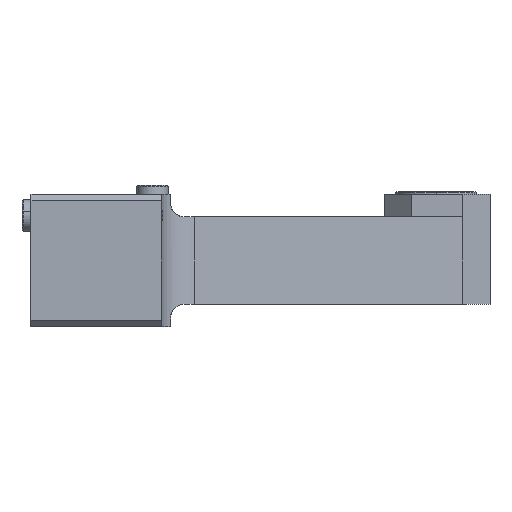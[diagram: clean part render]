
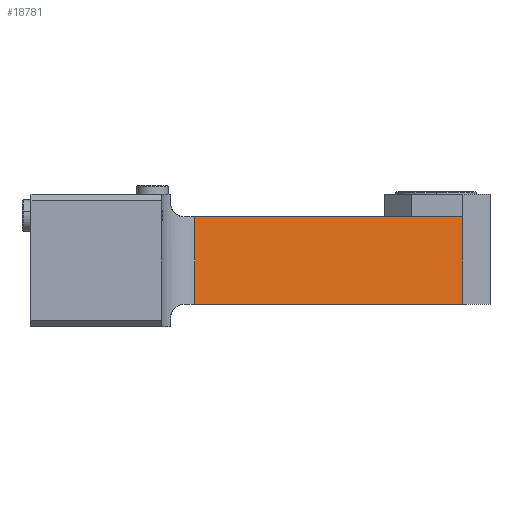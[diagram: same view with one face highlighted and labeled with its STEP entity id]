
A CAD part, left-side view. The second image highlights one B-rep face of the part: STEP entity #18781.
In plain terms, the highlighted planar face has unit normal (-0.985, -0.174, 0).
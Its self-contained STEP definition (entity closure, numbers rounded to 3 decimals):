
#467 = EDGE_CURVE ( 'NONE', #7554, #11256, #18400, .T. ) ;
#950 = VERTEX_POINT ( 'NONE', #1161 ) ;
#1161 = CARTESIAN_POINT ( 'NONE',  ( -24., -90., 10. ) ) ;
#1301 = DIRECTION ( 'NONE',  ( -0.174, 0.985, 0. ) ) ;
#1600 = DIRECTION ( 'NONE',  ( -0.174, 0.985, 0. ) ) ;
#2550 = EDGE_LOOP ( 'NONE', ( #10076, #23640, #10495, #26383 ) ) ;
#2760 = AXIS2_PLACEMENT_3D ( 'NONE', #13840, #18110, #1600 ) ;
#2812 = CARTESIAN_POINT ( 'NONE',  ( -24., -90., 49. ) ) ;
#3058 = FACE_OUTER_BOUND ( 'NONE', #2550, .T. ) ;
#3070 = CARTESIAN_POINT ( 'NONE',  ( -24., -90., 0. ) ) ;
#3713 = CARTESIAN_POINT ( 'NONE',  ( -38.667, -6.818, 49. ) ) ;
#4674 = VECTOR ( 'NONE', #22640, 1000. ) ;
#5895 = LINE ( 'NONE', #3070, #12634 ) ;
#7245 = VECTOR ( 'NONE', #1301, 1000. ) ;
#7554 = VERTEX_POINT ( 'NONE', #2812 ) ;
#9150 = CARTESIAN_POINT ( 'NONE',  ( -47.628, 44., 10. ) ) ;
#9636 = CARTESIAN_POINT ( 'NONE',  ( -45.005, 29.126, 49. ) ) ;
#9805 = PLANE ( 'NONE',  #2760 ) ;
#10076 = ORIENTED_EDGE ( 'NONE', *, *, #467, .T. ) ;
#10191 = EDGE_CURVE ( 'NONE', #950, #23823, #24196, .T. ) ;
#10495 = ORIENTED_EDGE ( 'NONE', *, *, #10191, .F. ) ;
#10617 = EDGE_CURVE ( 'NONE', #11256, #23823, #19686, .T. ) ;
#11256 = VERTEX_POINT ( 'NONE', #9636 ) ;
#12009 = VECTOR ( 'NONE', #22660, 1000. ) ;
#12634 = VECTOR ( 'NONE', #21174, 1000. ) ;
#13840 = CARTESIAN_POINT ( 'NONE',  ( -47.628, 44., 0. ) ) ;
#16324 = CARTESIAN_POINT ( 'NONE',  ( -45.005, 29.126, 0. ) ) ;
#16348 = CARTESIAN_POINT ( 'NONE',  ( -45.005, 29.126, 10. ) ) ;
#18110 = DIRECTION ( 'NONE',  ( 0.985, 0.174, 0. ) ) ;
#18400 = LINE ( 'NONE', #3713, #12009 ) ;
#18781 = ADVANCED_FACE ( 'NONE', ( #3058 ), #9805, .F. ) ;
#19686 = LINE ( 'NONE', #16324, #4674 ) ;
#20008 = EDGE_CURVE ( 'NONE', #950, #7554, #5895, .T. ) ;
#21174 = DIRECTION ( 'NONE',  ( 0., 0., 1. ) ) ;
#22640 = DIRECTION ( 'NONE',  ( 0., 0., -1. ) ) ;
#22660 = DIRECTION ( 'NONE',  ( -0.174, 0.985, 0. ) ) ;
#23640 = ORIENTED_EDGE ( 'NONE', *, *, #10617, .T. ) ;
#23823 = VERTEX_POINT ( 'NONE', #16348 ) ;
#24196 = LINE ( 'NONE', #9150, #7245 ) ;
#26383 = ORIENTED_EDGE ( 'NONE', *, *, #20008, .T. ) ;
